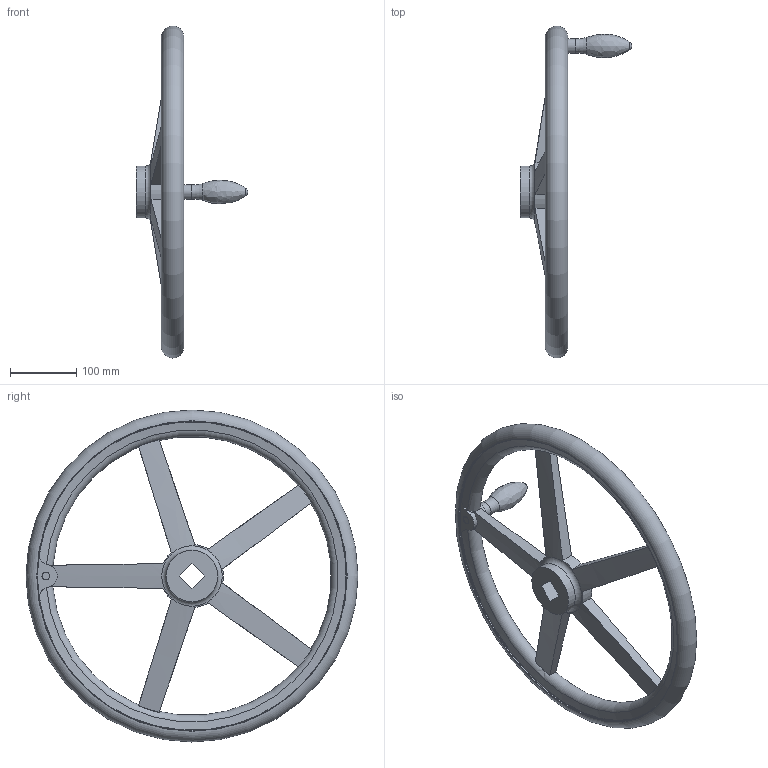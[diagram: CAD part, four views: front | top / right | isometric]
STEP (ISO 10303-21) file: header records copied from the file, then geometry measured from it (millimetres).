
FILE_DESCRIPTION( ( 'STEP AP203' ), '1' );
FILE_NAME( 'C:/Temp/Ganter_Step_05_03_2020/data/1_3/din_950/din_950_v/din_950_v_f/Handwheel DIN 950-AL-500-V27-F.stp', '2020-03-05T10:31:50', ( 'License CC BY-ND 4.0' ), ( 'CADENAS' ), ' ', 'PARTsolutions', ' ' );
FILE_SCHEMA( ( 'CONFIG_CONTROL_DESIGN' ) );
Length unit declared in the file: millimetre
Products named in the file (1): _Handwheel DIN 950-AL-500-V27-F
Bounding box: 168.5 x 499.98 x 499.98 mm (x, y, z)
Volume: 2158381.8 mm3; surface area: 288591.3 mm2
Topology: 1 solids, 1 shells, 64 faces, 190 edges, 123 vertices
Faces by surface type: torus 21, plane 19, cylinder 16, cone 6, sphere 1, bspline 1
Full cylindrical faces by diameter (mm): 22 x1, 78 x2, 466 x2
Entity records: 2597 total; most frequent: CARTESIAN_POINT 1030, ORIENTED_EDGE 326, DIRECTION 284, EDGE_CURVE 163, AXIS2_PLACEMENT_3D 129, VERTEX_POINT 117, EDGE_LOOP 90, FACE_OUTER_BOUND 78
